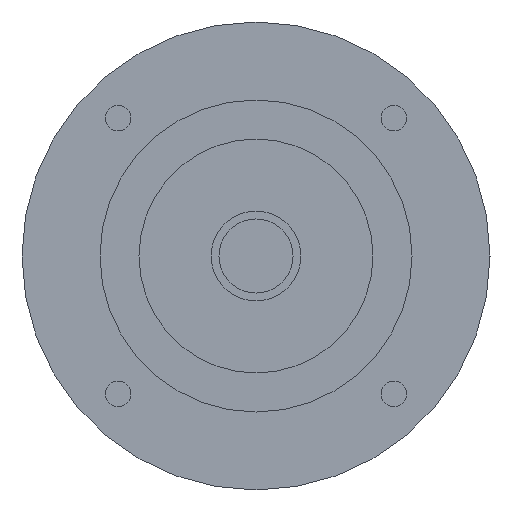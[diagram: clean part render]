
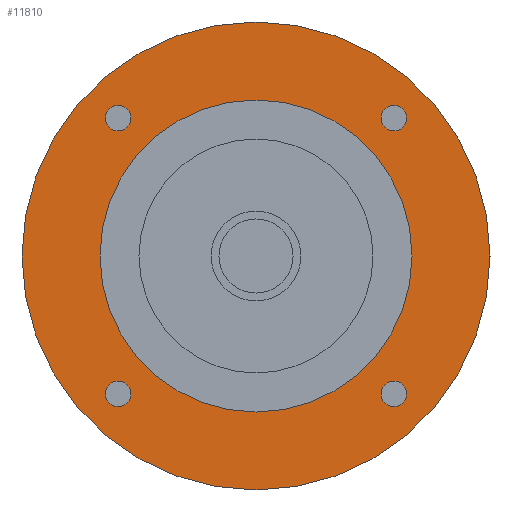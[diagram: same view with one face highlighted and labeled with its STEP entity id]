
A CAD part, left-side view. The second image highlights one B-rep face of the part: STEP entity #11810.
In plain terms, the highlighted planar face has unit normal (-1, 0, 0) as drawn and (0, 0, -1) by its records, which use the part's own axes.
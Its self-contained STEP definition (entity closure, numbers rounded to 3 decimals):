
#8990=CARTESIAN_POINT('',(60.,0.,-47.001));
#9000=VERTEX_POINT('',#8990);
#9030=CARTESIAN_POINT('',(0.,0.,
-47.001));
#9040=DIRECTION('',(0.,0.,-1.));
#9050=DIRECTION('',(0.,-1.,0.));
#9060=AXIS2_PLACEMENT_3D('',#9030,#9040,#9050);
#9070=CIRCLE('',#9060,60.);
#9080=CARTESIAN_POINT('',(0.,-60.,-47.001));
#9090=VERTEX_POINT('',#9080);
#9100=EDGE_CURVE('',#9000,#9090,#9070,.T.);
#9120=CARTESIAN_POINT('',(-60.,0.,-47.001));
#9130=VERTEX_POINT('',#9120);
#9140=EDGE_CURVE('',#9090,#9130,#9070,.T.);
#10780=CARTESIAN_POINT('',(-32.105,35.355,-47.001));
#10790=VERTEX_POINT('',#10780);
#10820=CARTESIAN_POINT('',(-35.355,35.355,-47.001));
#10830=DIRECTION('',(0.,0.,-1.));
#10840=DIRECTION('',(-1.,0.,0.));
#10850=AXIS2_PLACEMENT_3D('',#10820,#10830,#10840);
#10860=CIRCLE('',#10850,3.25);
#10870=CARTESIAN_POINT('',(-38.605,35.355,-47.001));
#10880=VERTEX_POINT('',#10870);
#10890=EDGE_CURVE('',#10880,#10790,#10860,.T.);
#11010=CARTESIAN_POINT('',(0.,0.,
-47.001));
#11020=DIRECTION('',(0.,0.,-1.));
#11030=DIRECTION('',(1.,0.,0.));
#11040=AXIS2_PLACEMENT_3D('',#11010,#11020,#11030);
#11050=PLANE('',#11040);
#11060=CARTESIAN_POINT('',(35.355,35.355,-47.001));
#11070=DIRECTION('',(0.,0.,-1.));
#11080=DIRECTION('',(0.,1.,0.));
#11090=AXIS2_PLACEMENT_3D('',#11060,#11070,#11080);
#11100=CIRCLE('',#11090,3.25);
#11110=CARTESIAN_POINT('',(35.355,38.605,-47.001));
#11120=VERTEX_POINT('',#11110);
#11130=CARTESIAN_POINT('',(35.355,32.105,-47.001));
#11140=VERTEX_POINT('',#11130);
#11150=EDGE_CURVE('',#11120,#11140,#11100,.T.);
#11160=ORIENTED_EDGE('',*,*,#11150,.F.);
#11170=EDGE_CURVE('',#11140,#11120,#11100,.T.);
#11180=ORIENTED_EDGE('',*,*,#11170,.F.);
#11190=EDGE_LOOP('',(#11180,#11160));
#11200=FACE_BOUND('',#11190,.T.);
#11210=ORIENTED_EDGE('',*,*,#10890,.F.);
#11220=EDGE_CURVE('',#10790,#10880,#10860,.T.);
#11230=ORIENTED_EDGE('',*,*,#11220,.F.);
#11240=EDGE_LOOP('',(#11230,#11210));
#11250=FACE_BOUND('',#11240,.T.);
#11260=CARTESIAN_POINT('',(-35.355,-35.355,-47.001))
;
#11270=DIRECTION('',(0.,0.,-1.));
#11280=DIRECTION('',(0.,-1.,0.));
#11290=AXIS2_PLACEMENT_3D('',#11260,#11270,#11280);
#11300=CIRCLE('',#11290,3.25);
#11310=CARTESIAN_POINT('',(-35.355,-38.605,-47.001))
;
#11320=VERTEX_POINT('',#11310);
#11330=CARTESIAN_POINT('',(-35.355,-32.105,-47.001))
;
#11340=VERTEX_POINT('',#11330);
#11350=EDGE_CURVE('',#11320,#11340,#11300,.T.);
#11360=ORIENTED_EDGE('',*,*,#11350,.F.);
#11370=EDGE_CURVE('',#11340,#11320,#11300,.T.);
#11380=ORIENTED_EDGE('',*,*,#11370,.F.);
#11390=EDGE_LOOP('',(#11380,#11360));
#11400=FACE_BOUND('',#11390,.T.);
#11410=CARTESIAN_POINT('',(0.,0.,
-47.001));
#11420=DIRECTION('',(0.,0.,1.));
#11430=DIRECTION('',(0.,1.,0.));
#11440=AXIS2_PLACEMENT_3D('',#11410,#11420,#11430);
#11450=CIRCLE('',#11440,40.);
#11460=CARTESIAN_POINT('',(-40.,0.,-47.001));
#11470=VERTEX_POINT('',#11460);
#11480=CARTESIAN_POINT('',(40.,0.,-47.001));
#11490=VERTEX_POINT('',#11480);
#11500=EDGE_CURVE('',#11470,#11490,#11450,.T.);
#11510=ORIENTED_EDGE('',*,*,#11500,.T.);
#11520=CARTESIAN_POINT('',(0.,40.,-47.001));
#11530=VERTEX_POINT('',#11520);
#11540=EDGE_CURVE('',#11530,#11470,#11450,.T.);
#11550=ORIENTED_EDGE('',*,*,#11540,.T.);
#11560=EDGE_CURVE('',#11490,#11530,#11450,.T.);
#11570=ORIENTED_EDGE('',*,*,#11560,.T.);
#11580=EDGE_LOOP('',(#11570,#11550,#11510));
#11590=FACE_BOUND('',#11580,.T.);
#11600=CARTESIAN_POINT('',(35.355,-35.355,-47.001));
#11610=DIRECTION('',(0.,0.,-1.));
#11620=DIRECTION('',(1.,0.,0.));
#11630=AXIS2_PLACEMENT_3D('',#11600,#11610,#11620);
#11640=CIRCLE('',#11630,3.25);
#11650=CARTESIAN_POINT('',(38.605,-35.355,-47.001));
#11660=VERTEX_POINT('',#11650);
#11670=CARTESIAN_POINT('',(32.105,-35.355,-47.001));
#11680=VERTEX_POINT('',#11670);
#11690=EDGE_CURVE('',#11660,#11680,#11640,.T.);
#11700=ORIENTED_EDGE('',*,*,#11690,.F.);
#11710=EDGE_CURVE('',#11680,#11660,#11640,.T.);
#11720=ORIENTED_EDGE('',*,*,#11710,.F.);
#11730=EDGE_LOOP('',(#11720,#11700));
#11740=FACE_BOUND('',#11730,.T.);
#11750=EDGE_CURVE('',#9130,#9000,#9070,.T.);
#11760=ORIENTED_EDGE('',*,*,#11750,.T.);
#11770=ORIENTED_EDGE('',*,*,#9140,.T.);
#11780=ORIENTED_EDGE('',*,*,#9100,.T.);
#11790=EDGE_LOOP('',(#11780,#11770,#11760));
#11800=FACE_OUTER_BOUND('',#11790,.T.);
#11810=ADVANCED_FACE('',(#11200,#11250,#11400,#11590,#11740,#11800),
#11050,.T.);
